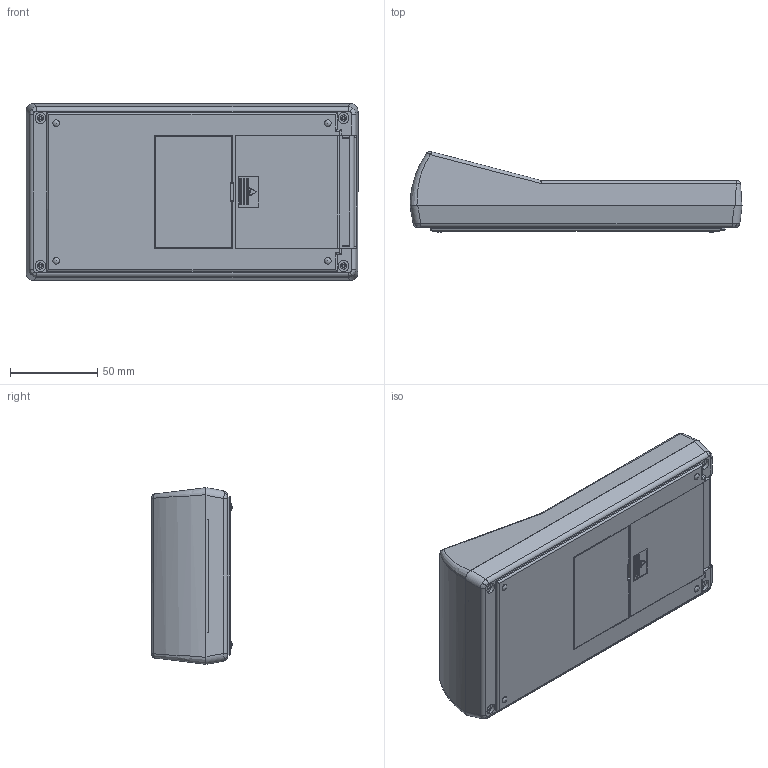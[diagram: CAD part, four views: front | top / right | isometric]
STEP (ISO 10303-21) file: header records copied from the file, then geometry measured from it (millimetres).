
FILE_DESCRIPTION (( 'STEP AP214' ), '1' );
FILE_NAME ('90-51-29V-R.STEP', '2019-12-01T17:25:15', ( 'Rudy' ), ( '' ), 'SwSTEP 2.0', 'SolidWorks 2014', '' );
FILE_SCHEMA (( 'AUTOMOTIVE_DESIGN' ));
Length unit declared in the file: millimetre
Products named in the file (5): 29V door; 100 bessel; 100 Top Angled LCD; 100-01 BOT-29V; 90-51-29V-R
Assembly tree (4 placements, depth 2):
  90-51-29V-R
    100-01 BOT-29V
    100 Top Angled LCD
    100 bessel
    29V door
Bounding box: 190.6 x 46.43 x 101.4 mm (x, y, z)
Volume: 127881.7 mm3; surface area: 130899 mm2
Topology: 4 solids, 4 shells, 540 faces, 1459 edges, 941 vertices
Faces by surface type: plane 347, cylinder 131, cone 24, bspline 22, torus 12, sphere 4
Entity records: 17949 total; most frequent: CARTESIAN_POINT 4380, ORIENTED_EDGE 2886, DIRECTION 2642, EDGE_CURVE 1443, VECTOR 1054, LINE 1054, VERTEX_POINT 933, AXIS2_PLACEMENT_3D 794
